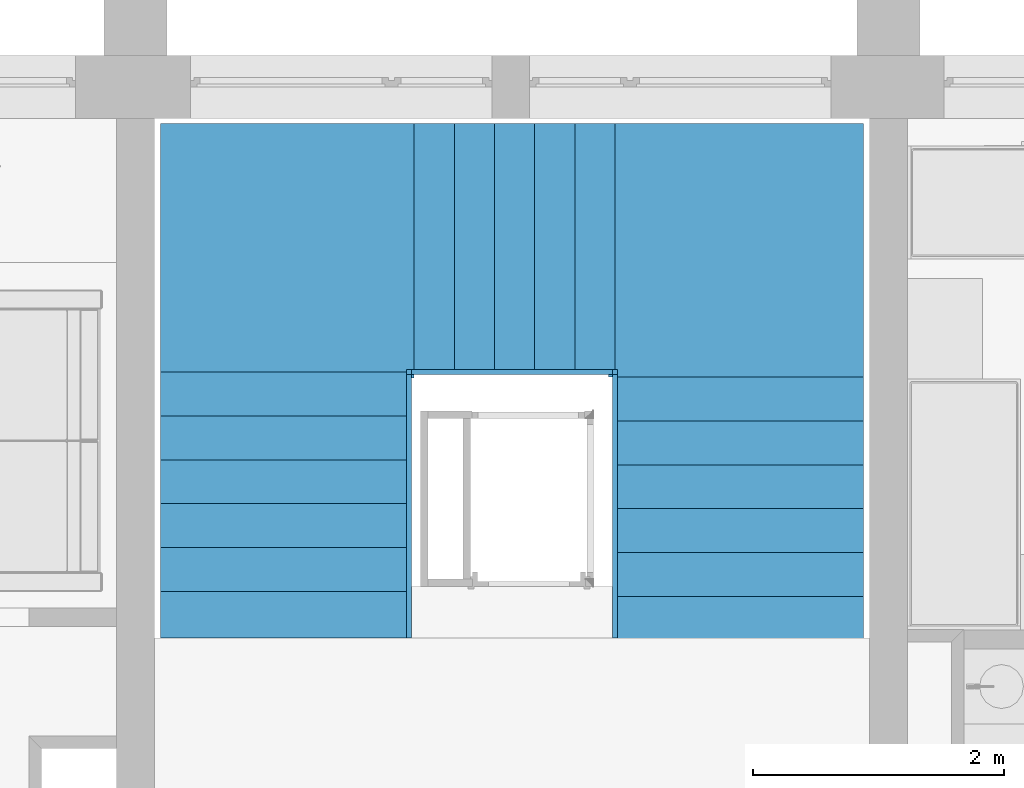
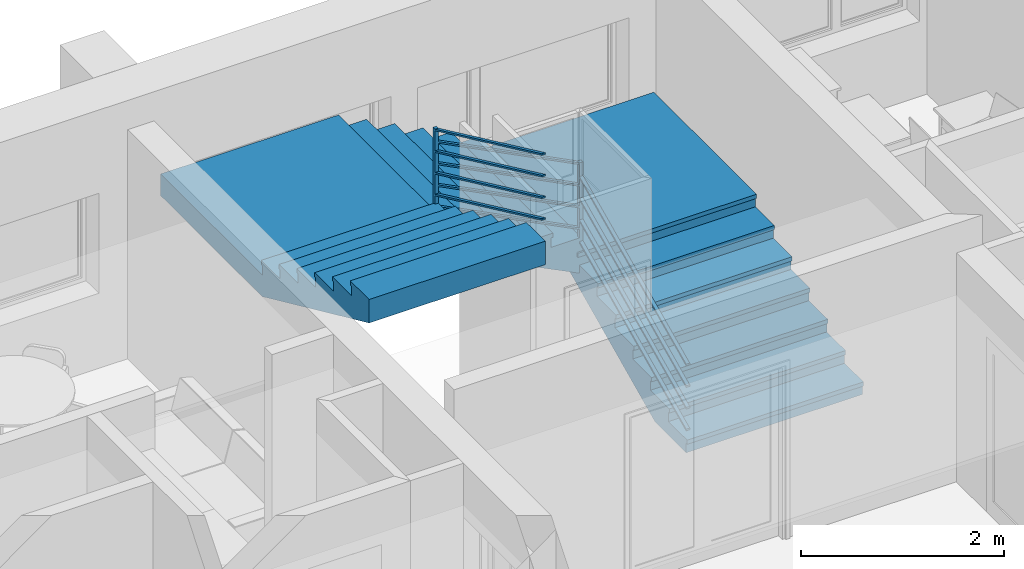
# One storey, part 41 of 172: 1 stair.
"""IFC2X3 building model written with IfcOpenShell, lengths in millimetres."""

import ifcopenshell
import ifcopenshell.guid

model = None  # the IFC model being written
_history = None  # IfcOwnerHistory: only IFC2X3 demands one
_inside = {}  # id of a spatial element -> (the spatial element, [elements in it])
_under = {}  # id of a project, library or spatial element -> (it, [spatial elements below it])
_declared = {}  # id of a project -> (the project, [libraries it declares])
_typed = {}  # id of a type object -> (the type object, [elements of that type])
_made_of = {}  # id of a material, layer set ... -> (it, [elements and type objects made of it])


def new_model(schema):
    """Start an empty IFC model of exactly this schema.

    Asked for "IFC4X3", IfcOpenShell would pick the latest addendum, in which some entities
    have other attributes; the version numbers below select the first issue.
    IFC2X3 requires an IfcOwnerHistory on every rooted entity: one is made here for all.
    """
    global model, _history
    if schema == "IFC4X3":
        model = ifcopenshell.file(schema_version=(4, 3, 0, 0))
    else:
        model = ifcopenshell.file(schema=schema)
    _inside.clear()
    _under.clear()
    _declared.clear()
    _typed.clear()
    _made_of.clear()
    _history = None
    if model.schema == "IFC2X3":
        org = make("IfcOrganization", Name="unknown")
        user = make(
            "IfcPersonAndOrganization",
            ThePerson=make("IfcPerson", FamilyName="unknown"),
            TheOrganization=org,
        )
        app = make(
            "IfcApplication",
            ApplicationDeveloper=org,
            Version="unknown",
            ApplicationFullName="unknown",
            ApplicationIdentifier="unknown",
        )
        _history = make(
            "IfcOwnerHistory",
            OwningUser=user,
            OwningApplication=app,
            ChangeAction="ADDED",
            CreationDate=0,
        )
    return model


def make(cls, **values):
    """One entity of the class cls with the attributes given. An attribute that is None is left unset."""
    return model.create_entity(
        cls, **{name: value for name, value in values.items() if value is not None}
    )


def entity(cls, *values):
    """Any entity or typed value of the class cls, its attributes in the order of the schema. None: left unset."""
    e = model.create_entity(cls)
    for i, value in enumerate(values):
        if value is not None:
            e[i] = value
    return e


def rooted(cls, **values):
    """An entity with a GlobalId (a new one), such as an element, a storey or a relation."""
    return make(cls, GlobalId=ifcopenshell.guid.new(), OwnerHistory=_history, **values)


def si_unit(unit_type, name, prefix=None):
    """IfcSIUnit, for example si_unit("LENGTHUNIT", "METRE", prefix="MILLI")."""
    return make("IfcSIUnit", UnitType=unit_type, Prefix=prefix, Name=name)


def converted_unit(unit_type, name, factor, base, dimensions=None, offset=None):
    """IfcConversionBasedUnit, such as the inch: factor (a typed value) times the base unit."""
    return make(
        "IfcConversionBasedUnit"
        if offset is None
        else "IfcConversionBasedUnitWithOffset",
        ConversionOffset=offset,
        Dimensions=None
        if dimensions is None
        else entity("IfcDimensionalExponents", *dimensions),
        UnitType=unit_type,
        Name=name,
        ConversionFactor=make(
            "IfcMeasureWithUnit", ValueComponent=factor, UnitComponent=base
        ),
    )


def money_unit(currency):
    """IfcMonetaryUnit."""
    return make("IfcMonetaryUnit", Currency=currency)


def assignment(units):
    """IfcUnitAssignment: the units of a project."""
    return None if units is None else make("IfcUnitAssignment", Units=units)


def point(xyz):
    """IfcCartesianPoint."""
    return None if xyz is None else make("IfcCartesianPoint", Coordinates=xyz)


def direction(xyz):
    """IfcDirection."""
    return None if xyz is None else make("IfcDirection", DirectionRatios=xyz)


def frame(location, z_axis=None, x_axis=None):
    """IfcAxis2Placement3D, a coordinate frame: its origin and axes. An axis left out is left unset."""
    return make(
        "IfcAxis2Placement3D",
        Location=point(location),
        Axis=direction(z_axis),
        RefDirection=direction(x_axis),
    )


def origin_with_axes():
    """The frame at (0, 0, 0) with the z axis (0, 0, 1) and the x axis (1, 0, 0) written out."""
    return frame((0.0, 0.0, 0.0), z_axis=(0.0, 0.0, 1.0), x_axis=(1.0, 0.0, 0.0))


def place(relative_to, where):
    """IfcLocalPlacement: puts the frame where relative to a parent placement (None: the world)."""
    return make(
        "IfcLocalPlacement", PlacementRelTo=relative_to, RelativePlacement=where
    )


def context(
    kind, dimensions, precision=None, world=None, true_north=None, identifier=None
):
    """IfcGeometricRepresentationContext, for example the 3D "Model" context."""
    return make(
        "IfcGeometricRepresentationContext",
        ContextIdentifier=identifier,
        ContextType=kind,
        CoordinateSpaceDimension=dimensions,
        Precision=precision,
        WorldCoordinateSystem=world,
        TrueNorth=true_north,
    )


def subcontext(parent, identifier, kind, view, scale=None):
    """IfcGeometricRepresentationSubContext, for example "Body" below "Model"."""
    return make(
        "IfcGeometricRepresentationSubContext",
        ContextIdentifier=identifier,
        ContextType=kind,
        ParentContext=parent,
        TargetScale=scale,
        TargetView=view,
    )


def project(units=None, contexts=None):
    """IfcProject with its units and contexts."""
    return rooted(
        "IfcProject",
        Name="project",
        RepresentationContexts=contexts,
        UnitsInContext=assignment(units),
    )


def spatial(cls, under=None, at=None, **own):
    """A site, building, storey or space (cls), placed at a placement, below another one or the project."""
    s = rooted(cls, ObjectPlacement=at, **own)
    if under is not None:
        _under.setdefault(under.id(), (under, []))[1].append(s)
    return s


def faces_of(points, faces, orient=None, outer=None):
    """IfcFace entities. A face is a list of loops; a loop is a list of indices into points, from 0.

    orient and outer hold one flag for each loop. By default every Orientation is true, the
    first loop of a face is its IfcFaceOuterBound and the others are IfcFaceBound.
    """
    made = []
    for i, loops in enumerate(faces):
        bounds = []
        for j, loop in enumerate(loops):
            is_outer = j == 0 if outer is None else outer[i][j]
            bounds.append(
                make(
                    "IfcFaceOuterBound" if is_outer else "IfcFaceBound",
                    Bound=make("IfcPolyLoop", Polygon=[points[k] for k in loop]),
                    Orientation=True if orient is None else orient[i][j],
                )
            )
        made.append(make("IfcFace", Bounds=bounds))
    return made


def faceted_brep(points, faces, orient=None, outer=None, voids=None):
    """IfcFacetedBrep: a solid bounded by flat faces; with voids (closed shells), ...WithVoids."""
    shared = [point(p) for p in points]
    hull = make("IfcClosedShell", CfsFaces=faces_of(shared, faces, orient, outer))
    if voids is None:
        return make("IfcFacetedBrep", Outer=hull)
    return make(
        "IfcFacetedBrepWithVoids",
        Outer=hull,
        Voids=[
            make(cls, CfsFaces=faces_of(shared, fs, o, b)) for cls, fs, o, b in voids
        ],
    )


def shape(context_of_items, identifier, shape_type, items):
    """IfcShapeRepresentation: the items that make up one representation, for example the "Body"."""
    return make(
        "IfcShapeRepresentation",
        ContextOfItems=context_of_items,
        RepresentationIdentifier=identifier,
        RepresentationType=shape_type,
        Items=items,
    )


def material(Name=None, Category=None):
    """IfcMaterial."""
    return make("IfcMaterial", Name=Name, Category=Category)


def made_of(thing, what):
    """Note that an element or type object is made of a material, layer set ...; save() writes the relation."""
    if what is not None:
        _made_of.setdefault(what.id(), (what, []))[1].append(thing)
    return thing


def element(
    cls,
    number,
    at=None,
    inside=None,
    cuts=None,
    type_object=None,
    material=None,
    context=None,
    identifier="Body",
    shape_type=None,
    held_by="IfcProductDefinitionShape",
    body=None,
    shapes=None,
    **own,
):
    """One element of the class cls, such as IfcWall. Its Tag is "e" and its number.

    at: its placement. inside: the storey or other place that contains it. cuts: it is an
    opening in that element (IfcRelVoidsElement). A single representation is given by context,
    identifier, shape_type and body (its items); several are given by shapes. held_by: the class
    of the entity that holds the representations. save() writes the other relations.
    """
    e = rooted(cls, Tag="e%d" % number, ObjectPlacement=at, **own)
    if body is not None:
        shapes = [shape(context, identifier, shape_type, body)]
    if shapes is not None:
        e.Representation = make(held_by, Representations=shapes)
    if inside is not None:
        _inside.setdefault(inside.id(), (inside, []))[1].append(e)
    if cuts is not None:
        rooted(
            "IfcRelVoidsElement", RelatingBuildingElement=cuts, RelatedOpeningElement=e
        )
    if type_object is not None:
        _typed.setdefault(type_object.id(), (type_object, []))[1].append(e)
    return made_of(e, material)


def aggregate(whole, parts):
    """IfcRelAggregates: a whole, such as a stair, and the parts it consists of."""
    return rooted("IfcRelAggregates", RelatingObject=whole, RelatedObjects=parts)


def save(model, path):
    """Write the relations noted so far, then the file.

    IfcRelAggregates (storeys below a building ...), IfcRelContainedInSpatialStructure (elements
    in a storey), IfcRelDefinesByType, IfcRelAssociatesMaterial and IfcRelDeclares: one each for
    every whole, place, type object, material and project.
    """
    for whole, parts in _under.values():
        aggregate(whole, parts)
    for where, things in _inside.values():
        rooted(
            "IfcRelContainedInSpatialStructure",
            RelatedElements=things,
            RelatingStructure=where,
        )
    for kind, things in _typed.values():
        rooted("IfcRelDefinesByType", RelatedObjects=things, RelatingType=kind)
    for what, things in _made_of.values():
        rooted("IfcRelAssociatesMaterial", RelatedObjects=things, RelatingMaterial=what)
    for by, libraries in _declared.values():
        rooted("IfcRelDeclares", RelatingContext=by, RelatedDefinitions=libraries)
    model.write(path)


model = new_model("IFC2X3")

# Units and contexts
model_context = context("Model", 3, precision=1e-05, world=origin_with_axes(), true_north=direction((0.0, 1.0)))
body_context = subcontext(model_context, "Body", "Model", "MODEL_VIEW")
ifc_project = project(units=[si_unit("LENGTHUNIT", "METRE", prefix="MILLI"), si_unit("AREAUNIT", "SQUARE_METRE"), si_unit("VOLUMEUNIT", "CUBIC_METRE"), converted_unit("PLANEANGLEUNIT", "DEGREE", entity("IfcPlaneAngleMeasure", 0.0174532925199), si_unit("PLANEANGLEUNIT", "RADIAN"), dimensions=[0, 0, 0, 0, 0, 0, 0]), si_unit("SOLIDANGLEUNIT", "STERADIAN"), money_unit("USD"), converted_unit("TIMEUNIT", "Year", entity("IfcTimeMeasure", 31556926.0), si_unit("TIMEUNIT", "SECOND"), dimensions=[0, 0, 0, 0, 0, 0, 0]), si_unit("MASSUNIT", "GRAM"), si_unit("THERMODYNAMICTEMPERATUREUNIT", "DEGREE_CELSIUS"), si_unit("LUMINOUSINTENSITYUNIT", "LUMEN")], contexts=[model_context])

# Site, building, storey
site_placement = place(None, origin_with_axes())
site = spatial("IfcSite", under=ifc_project, at=site_placement, Name="Site", CompositionType="ELEMENT")
building_placement = place(site_placement, origin_with_axes())
building = spatial("IfcBuilding", under=site, at=building_placement, Name="Building", CompositionType="ELEMENT")
storey_placement = place(building_placement, frame((0.0, 0.0, 3200.0), z_axis=(0.0, 0.0, 1.0), x_axis=(1.0, 0.0, 0.0)))
storey = spatial("IfcBuildingStorey", under=building, at=storey_placement, Name="3KORRUS", CompositionType="ELEMENT", Elevation=3200.0)

# Stair
ifc_material = material(Name="25 %")
stair_placement = place(storey_placement, frame((-6340.29670331, -9280.64352695, 0.0), z_axis=(0.0, 0.0, 1.0), x_axis=(1.0, 0.0, 0.0)))
element("IfcStair", 1, at=stair_placement, inside=storey, material=ifc_material, Name="TRE3", ObjectType="TRE3", ShapeType="NOTDEFINED", context=body_context, shape_type="Brep", body=[
    faceted_brep([(0.0, 615.367, 0.0), (-2000.0, 615.367, 0.0), (-2000.0, 2496.543, 882.105), (0.0, 2496.543, 882.105), (0.0, 30.0, 0.0), (-2000.0, 30.0, 0.0), (-2000.0, 30.0, 113.158), (-2000.0, 380.0, 113.158), (-2000.0, 380.0, 276.316), (-2000.0, 730.0, 276.316), (-2000.0, 730.0, 439.474), (-2000.0, 1080.0, 439.474), (-2000.0, 1080.0, 602.632), (-2000.0, 1430.0, 602.632), (-2000.0, 1430.0, 765.789), (-2000.0, 1780.0, 765.789), (-2000.0, 1780.0, 928.947), (-2000.0, 2130.0, 928.947), (-2000.0, 2130.0, 882.105), (0.0, 2130.0, 882.105), (0.0, 2130.0, 928.947), (0.0, 1780.0, 928.947), (0.0, 1780.0, 765.789), (0.0, 1430.0, 765.789), (0.0, 1430.0, 602.632), (0.0, 1080.0, 602.632), (0.0, 1080.0, 439.474), (0.0, 730.0, 439.474), (0.0, 730.0, 276.316), (0.0, 380.0, 276.316), (0.0, 380.0, 113.158), (0.0, 30.0, 113.158)], [[[0, 1, 2, 3]], [[4, 5, 1, 0]], [[1, 5, 6, 7, 8, 9, 10, 11, 12, 13, 14, 15, 16, 17, 18, 2]], [[3, 2, 18, 19]], [[0, 3, 19, 20, 21, 22, 23, 24, 25, 26, 27, 28, 29, 30, 31, 4]], [[31, 6, 5, 4]], [[30, 7, 6, 31]], [[29, 8, 7, 30]], [[28, 9, 8, 29]], [[27, 10, 9, 28]], [[26, 11, 10, 27]], [[25, 12, 11, 26]], [[24, 13, 12, 25]], [[23, 14, 13, 24]], [[22, 15, 14, 23]], [[21, 16, 15, 22]], [[20, 17, 16, 21]], [[19, 18, 17, 20]]]),
    faceted_brep([(0.0, 0.0, 0.0), (-2000.0, 0.0, 0.0), (-2000.0, 30.0, 0.0), (0.0, 30.0, 0.0), (0.0, 0.0, 113.158), (-2000.0, 0.0, 113.158), (-2000.0, 30.0, 113.158), (0.0, 30.0, 113.158)], [[[0, 1, 2, 3]], [[4, 5, 1, 0]], [[1, 5, 6, 2]], [[3, 2, 6, 7]], [[0, 3, 7, 4]], [[7, 6, 5, 4]]]),
    faceted_brep([(0.0, 350.0, 163.158), (-2000.0, 350.0, 163.158), (-2000.0, 380.0, 163.158), (0.0, 380.0, 163.158), (0.0, 350.0, 276.316), (-2000.0, 350.0, 276.316), (-2000.0, 380.0, 276.316), (0.0, 380.0, 276.316)], [[[0, 1, 2, 3]], [[4, 5, 1, 0]], [[1, 5, 6, 2]], [[3, 2, 6, 7]], [[0, 3, 7, 4]], [[7, 6, 5, 4]]]),
    faceted_brep([(0.0, 700.0, 326.316), (-2000.0, 700.0, 326.316), (-2000.0, 730.0, 326.316), (0.0, 730.0, 326.316), (0.0, 700.0, 439.474), (-2000.0, 700.0, 439.474), (-2000.0, 730.0, 439.474), (0.0, 730.0, 439.474)], [[[0, 1, 2, 3]], [[4, 5, 1, 0]], [[1, 5, 6, 2]], [[3, 2, 6, 7]], [[0, 3, 7, 4]], [[7, 6, 5, 4]]]),
    faceted_brep([(0.0, 1050.0, 489.474), (-2000.0, 1050.0, 489.474), (-2000.0, 1080.0, 489.474), (0.0, 1080.0, 489.474), (0.0, 1050.0, 602.632), (-2000.0, 1050.0, 602.632), (-2000.0, 1080.0, 602.632), (0.0, 1080.0, 602.632)], [[[0, 1, 2, 3]], [[4, 5, 1, 0]], [[1, 5, 6, 2]], [[3, 2, 6, 7]], [[0, 3, 7, 4]], [[7, 6, 5, 4]]]),
    faceted_brep([(0.0, 1400.0, 652.632), (-2000.0, 1400.0, 652.632), (-2000.0, 1430.0, 652.632), (0.0, 1430.0, 652.632), (0.0, 1400.0, 765.789), (-2000.0, 1400.0, 765.789), (-2000.0, 1430.0, 765.789), (0.0, 1430.0, 765.789)], [[[0, 1, 2, 3]], [[4, 5, 1, 0]], [[1, 5, 6, 2]], [[3, 2, 6, 7]], [[0, 3, 7, 4]], [[7, 6, 5, 4]]]),
    faceted_brep([(0.0, 1750.0, 815.789), (-2000.0, 1750.0, 815.789), (-2000.0, 1780.0, 815.789), (0.0, 1780.0, 815.789), (0.0, 1750.0, 928.947), (-2000.0, 1750.0, 928.947), (-2000.0, 1780.0, 928.947), (0.0, 1780.0, 928.947)], [[[0, 1, 2, 3]], [[4, 5, 1, 0]], [[1, 5, 6, 2]], [[3, 2, 6, 7]], [[0, 3, 7, 4]], [[7, 6, 5, 4]]]),
    faceted_brep([(0.0, 2100.0, 978.947), (-2000.0, 2100.0, 978.947), (-2000.0, 2130.0, 978.947), (0.0, 2130.0, 978.947), (0.0, 2100.0, 1092.105), (-2000.0, 2100.0, 1092.105), (-2000.0, 2130.0, 1092.105), (0.0, 2130.0, 1092.105)], [[[0, 1, 2, 3]], [[4, 5, 1, 0]], [[1, 5, 6, 2]], [[3, 2, 6, 7]], [[0, 3, 7, 4]], [[7, 6, 5, 4]]]),
    faceted_brep([(0.0, 2130.0, 882.105), (0.0, 2130.0, 928.947), (-2000.0, 2130.0, 928.947), (-2000.0, 2130.0, 882.105), (0.0, 2496.543, 882.105), (0.0, 2496.543, 928.947), (0.0, 4100.0, 928.947), (-2000.0, 4100.0, 928.947), (-2000.0, 2496.543, 928.947), (-2000.0, 2496.543, 882.105), (-2000.0, 4100.0, 882.105), (0.0, 4100.0, 882.105)], [[[0, 1, 2, 3]], [[4, 5, 1, 0]], [[1, 5, 6, 7, 8, 2]], [[3, 2, 8, 9]], [[0, 3, 9, 10, 11, 4]], [[11, 6, 5, 4]], [[10, 7, 6, 11]], [[9, 8, 7, 10]]]),
    faceted_brep([(0.0, 2130.0, 928.947), (0.0, 2130.0, 1092.105), (-2000.0, 2130.0, 1092.105), (-2000.0, 2130.0, 928.947), (0.0, 4100.0, 928.947), (0.0, 4100.0, 1092.105), (-2000.0, 4100.0, 1092.105), (-2000.0, 4100.0, 928.947)], [[[0, 1, 2, 3]], [[4, 5, 1, 0]], [[1, 5, 6, 2]], [[3, 2, 6, 7]], [[0, 3, 7, 4]], [[7, 6, 5, 4]]]),
    faceted_brep([(-3966.543, 4100.0, 1861.053), (-3966.543, 2100.0, 1861.053), (-3630.0, 2100.0, 1861.053), (-3630.0, 4100.0, 1861.053), (-2000.0, 4100.0, 882.105), (-2000.0, 2100.0, 882.105), (-2000.0, 2100.0, 1092.105), (-2030.0, 2100.0, 1092.105), (-2030.0, 2100.0, 1255.263), (-2350.0, 2100.0, 1255.263), (-2350.0, 2100.0, 1418.421), (-2670.0, 2100.0, 1418.421), (-2670.0, 2100.0, 1581.579), (-2990.0, 2100.0, 1581.579), (-2990.0, 2100.0, 1744.737), (-3310.0, 2100.0, 1744.737), (-3310.0, 2100.0, 1907.895), (-3630.0, 2100.0, 1907.895), (-3630.0, 4100.0, 1907.895), (-3310.0, 4100.0, 1907.895), (-3310.0, 4100.0, 1744.737), (-2990.0, 4100.0, 1744.737), (-2990.0, 4100.0, 1581.579), (-2670.0, 4100.0, 1581.579), (-2670.0, 4100.0, 1418.421), (-2350.0, 4100.0, 1418.421), (-2350.0, 4100.0, 1255.263), (-2030.0, 4100.0, 1255.263), (-2030.0, 4100.0, 1092.105), (-2000.0, 4100.0, 1092.105)], [[[0, 1, 2, 3]], [[4, 5, 1, 0]], [[1, 5, 6, 7, 8, 9, 10, 11, 12, 13, 14, 15, 16, 17, 2]], [[3, 2, 17, 18]], [[0, 3, 18, 19, 20, 21, 22, 23, 24, 25, 26, 27, 28, 29, 4]], [[29, 6, 5, 4]], [[28, 7, 6, 29]], [[27, 8, 7, 28]], [[26, 9, 8, 27]], [[25, 10, 9, 26]], [[24, 11, 10, 25]], [[23, 12, 11, 24]], [[22, 13, 12, 23]], [[21, 14, 13, 22]], [[20, 15, 14, 21]], [[19, 16, 15, 20]], [[18, 17, 16, 19]]]),
    faceted_brep([(-2000.0, 4100.0, 1142.105), (-2000.0, 2100.0, 1142.105), (-2030.0, 2100.0, 1142.105), (-2030.0, 4100.0, 1142.105), (-2000.0, 4100.0, 1255.263), (-2000.0, 2100.0, 1255.263), (-2030.0, 2100.0, 1255.263), (-2030.0, 4100.0, 1255.263)], [[[0, 1, 2, 3]], [[4, 5, 1, 0]], [[1, 5, 6, 2]], [[3, 2, 6, 7]], [[0, 3, 7, 4]], [[7, 6, 5, 4]]]),
    faceted_brep([(-2320.0, 4100.0, 1305.263), (-2320.0, 2100.0, 1305.263), (-2350.0, 2100.0, 1305.263), (-2350.0, 4100.0, 1305.263), (-2320.0, 4100.0, 1418.421), (-2320.0, 2100.0, 1418.421), (-2350.0, 2100.0, 1418.421), (-2350.0, 4100.0, 1418.421)], [[[0, 1, 2, 3]], [[4, 5, 1, 0]], [[1, 5, 6, 2]], [[3, 2, 6, 7]], [[0, 3, 7, 4]], [[7, 6, 5, 4]]]),
    faceted_brep([(-2640.0, 4100.0, 1468.421), (-2640.0, 2100.0, 1468.421), (-2670.0, 2100.0, 1468.421), (-2670.0, 4100.0, 1468.421), (-2640.0, 4100.0, 1581.579), (-2640.0, 2100.0, 1581.579), (-2670.0, 2100.0, 1581.579), (-2670.0, 4100.0, 1581.579)], [[[0, 1, 2, 3]], [[4, 5, 1, 0]], [[1, 5, 6, 2]], [[3, 2, 6, 7]], [[0, 3, 7, 4]], [[7, 6, 5, 4]]]),
    faceted_brep([(-2960.0, 4100.0, 1631.579), (-2960.0, 2100.0, 1631.579), (-2990.0, 2100.0, 1631.579), (-2990.0, 4100.0, 1631.579), (-2960.0, 4100.0, 1744.737), (-2960.0, 2100.0, 1744.737), (-2990.0, 2100.0, 1744.737), (-2990.0, 4100.0, 1744.737)], [[[0, 1, 2, 3]], [[4, 5, 1, 0]], [[1, 5, 6, 2]], [[3, 2, 6, 7]], [[0, 3, 7, 4]], [[7, 6, 5, 4]]]),
    faceted_brep([(-3280.0, 4100.0, 1794.737), (-3280.0, 2100.0, 1794.737), (-3310.0, 2100.0, 1794.737), (-3310.0, 4100.0, 1794.737), (-3280.0, 4100.0, 1907.895), (-3280.0, 2100.0, 1907.895), (-3310.0, 2100.0, 1907.895), (-3310.0, 4100.0, 1907.895)], [[[0, 1, 2, 3]], [[4, 5, 1, 0]], [[1, 5, 6, 2]], [[3, 2, 6, 7]], [[0, 3, 7, 4]], [[7, 6, 5, 4]]]),
    faceted_brep([(-3600.0, 4100.0, 1957.895), (-3600.0, 2100.0, 1957.895), (-3630.0, 2100.0, 1957.895), (-3630.0, 4100.0, 1957.895), (-3600.0, 4100.0, 2071.053), (-3600.0, 2100.0, 2071.053), (-3630.0, 2100.0, 2071.053), (-3630.0, 4100.0, 2071.053)], [[[0, 1, 2, 3]], [[4, 5, 1, 0]], [[1, 5, 6, 2]], [[3, 2, 6, 7]], [[0, 3, 7, 4]], [[7, 6, 5, 4]]]),
    faceted_brep([(-3630.0, 4100.0, 1861.053), (-3630.0, 4100.0, 1907.895), (-3630.0, 2100.0, 1907.895), (-3630.0, 2100.0, 1861.053), (-3950.0, 4100.0, 1861.053), (-3950.0, 4100.0, 1907.895), (-5600.0, 4100.0, 1907.895), (-5600.0, 2100.0, 1907.895), (-3950.0, 2100.0, 1907.895), (-3950.0, 2100.0, 1861.053), (-5600.0, 2100.0, 1861.053), (-5600.0, 4100.0, 1861.053)], [[[0, 1, 2, 3]], [[4, 5, 1, 0]], [[1, 5, 6, 7, 8, 2]], [[3, 2, 8, 9]], [[0, 3, 9, 10, 11, 4]], [[11, 6, 5, 4]], [[10, 7, 6, 11]], [[9, 8, 7, 10]]]),
    faceted_brep([(-3630.0, 4100.0, 1907.895), (-3630.0, 4100.0, 2071.053), (-3630.0, 2100.0, 2071.053), (-3630.0, 2100.0, 1907.895), (-5600.0, 4100.0, 1907.895), (-5600.0, 4100.0, 2071.053), (-5600.0, 2100.0, 2071.053), (-5600.0, 2100.0, 1907.895)], [[[0, 1, 2, 3]], [[4, 5, 1, 0]], [[1, 5, 6, 2]], [[3, 2, 6, 7]], [[0, 3, 7, 4]], [[7, 6, 5, 4]]]),
    faceted_brep([(-5600.0, 0.0, 2818.303), (-3600.0, 0.0, 2818.303), (-3600.0, 0.0, 3050.0), (-5600.0, 0.0, 3050.0), (-5600.0, 2100.0, 1861.053), (-3600.0, 2100.0, 1861.053), (-3600.0, 2100.0, 2071.053), (-3600.0, 2070.0, 2071.053), (-3600.0, 2070.0, 2234.211), (-3600.0, 1720.0, 2234.211), (-3600.0, 1720.0, 2397.368), (-3600.0, 1370.0, 2397.368), (-3600.0, 1370.0, 2560.526), (-3600.0, 1020.0, 2560.526), (-3600.0, 1020.0, 2723.684), (-3600.0, 670.0, 2723.684), (-3600.0, 670.0, 2886.842), (-3600.0, 320.0, 2886.842), (-3600.0, 320.0, 3050.0), (-5600.0, 320.0, 3050.0), (-5600.0, 320.0, 2886.842), (-5600.0, 670.0, 2886.842), (-5600.0, 670.0, 2723.684), (-5600.0, 1020.0, 2723.684), (-5600.0, 1020.0, 2560.526), (-5600.0, 1370.0, 2560.526), (-5600.0, 1370.0, 2397.368), (-5600.0, 1720.0, 2397.368), (-5600.0, 1720.0, 2234.211), (-5600.0, 2070.0, 2234.211), (-5600.0, 2070.0, 2071.053), (-5600.0, 2100.0, 2071.053)], [[[0, 1, 2, 3]], [[4, 5, 1, 0]], [[1, 5, 6, 7, 8, 9, 10, 11, 12, 13, 14, 15, 16, 17, 18, 2]], [[3, 2, 18, 19]], [[0, 3, 19, 20, 21, 22, 23, 24, 25, 26, 27, 28, 29, 30, 31, 4]], [[31, 6, 5, 4]], [[30, 7, 6, 31]], [[29, 8, 7, 30]], [[28, 9, 8, 29]], [[27, 10, 9, 28]], [[26, 11, 10, 27]], [[25, 12, 11, 26]], [[24, 13, 12, 25]], [[23, 14, 13, 24]], [[22, 15, 14, 23]], [[21, 16, 15, 22]], [[20, 17, 16, 21]], [[19, 18, 17, 20]]]),
    faceted_brep([(-5600.0, 2100.0, 2121.053), (-3600.0, 2100.0, 2121.053), (-3600.0, 2070.0, 2121.053), (-5600.0, 2070.0, 2121.053), (-5600.0, 2100.0, 2234.211), (-3600.0, 2100.0, 2234.211), (-3600.0, 2070.0, 2234.211), (-5600.0, 2070.0, 2234.211)], [[[0, 1, 2, 3]], [[4, 5, 1, 0]], [[1, 5, 6, 2]], [[3, 2, 6, 7]], [[0, 3, 7, 4]], [[7, 6, 5, 4]]]),
    faceted_brep([(-5600.0, 1750.0, 2284.211), (-3600.0, 1750.0, 2284.211), (-3600.0, 1720.0, 2284.211), (-5600.0, 1720.0, 2284.211), (-5600.0, 1750.0, 2397.368), (-3600.0, 1750.0, 2397.368), (-3600.0, 1720.0, 2397.368), (-5600.0, 1720.0, 2397.368)], [[[0, 1, 2, 3]], [[4, 5, 1, 0]], [[1, 5, 6, 2]], [[3, 2, 6, 7]], [[0, 3, 7, 4]], [[7, 6, 5, 4]]]),
    faceted_brep([(-5600.0, 1400.0, 2447.368), (-3600.0, 1400.0, 2447.368), (-3600.0, 1370.0, 2447.368), (-5600.0, 1370.0, 2447.368), (-5600.0, 1400.0, 2560.526), (-3600.0, 1400.0, 2560.526), (-3600.0, 1370.0, 2560.526), (-5600.0, 1370.0, 2560.526)], [[[0, 1, 2, 3]], [[4, 5, 1, 0]], [[1, 5, 6, 2]], [[3, 2, 6, 7]], [[0, 3, 7, 4]], [[7, 6, 5, 4]]]),
    faceted_brep([(-5600.0, 1050.0, 2610.526), (-3600.0, 1050.0, 2610.526), (-3600.0, 1020.0, 2610.526), (-5600.0, 1020.0, 2610.526), (-5600.0, 1050.0, 2723.684), (-3600.0, 1050.0, 2723.684), (-3600.0, 1020.0, 2723.684), (-5600.0, 1020.0, 2723.684)], [[[0, 1, 2, 3]], [[4, 5, 1, 0]], [[1, 5, 6, 2]], [[3, 2, 6, 7]], [[0, 3, 7, 4]], [[7, 6, 5, 4]]]),
    faceted_brep([(-5600.0, 700.0, 2773.684), (-3600.0, 700.0, 2773.684), (-3600.0, 670.0, 2773.684), (-5600.0, 670.0, 2773.684), (-5600.0, 700.0, 2886.842), (-3600.0, 700.0, 2886.842), (-3600.0, 670.0, 2886.842), (-5600.0, 670.0, 2886.842)], [[[0, 1, 2, 3]], [[4, 5, 1, 0]], [[1, 5, 6, 2]], [[3, 2, 6, 7]], [[0, 3, 7, 4]], [[7, 6, 5, 4]]]),
    faceted_brep([(-5600.0, 350.0, 2936.842), (-3600.0, 350.0, 2936.842), (-3600.0, 320.0, 2936.842), (-5600.0, 320.0, 2936.842), (-5600.0, 350.0, 3050.0), (-3600.0, 350.0, 3050.0), (-3600.0, 320.0, 3050.0), (-5600.0, 320.0, 3050.0)], [[[0, 1, 2, 3]], [[4, 5, 1, 0]], [[1, 5, 6, 2]], [[3, 2, 6, 7]], [[0, 3, 7, 4]], [[7, 6, 5, 4]]]),
    faceted_brep([(-2000.0, -20.0, 113.158), (-2000.0, 380.0, 113.158), (0.0, 380.0, 113.158), (0.0, -20.0, 113.158), (-2000.0, -20.0, 163.158), (-2000.0, 380.0, 163.158), (0.0, 380.0, 163.158), (0.0, -20.0, 163.158)], [[[0, 1, 2, 3]], [[0, 4, 5, 1]], [[1, 5, 6, 2]], [[2, 6, 7, 3]], [[3, 7, 4, 0]], [[7, 6, 5, 4]]]),
    faceted_brep([(-2000.0, 330.0, 276.316), (-2000.0, 730.0, 276.316), (0.0, 730.0, 276.316), (0.0, 330.0, 276.316), (-2000.0, 330.0, 326.316), (-2000.0, 730.0, 326.316), (0.0, 730.0, 326.316), (0.0, 330.0, 326.316)], [[[0, 1, 2, 3]], [[0, 4, 5, 1]], [[1, 5, 6, 2]], [[2, 6, 7, 3]], [[3, 7, 4, 0]], [[7, 6, 5, 4]]]),
    faceted_brep([(-2000.0, 680.0, 439.474), (-2000.0, 1080.0, 439.474), (0.0, 1080.0, 439.474), (0.0, 680.0, 439.474), (-2000.0, 680.0, 489.474), (-2000.0, 1080.0, 489.474), (0.0, 1080.0, 489.474), (0.0, 680.0, 489.474)], [[[0, 1, 2, 3]], [[0, 4, 5, 1]], [[1, 5, 6, 2]], [[2, 6, 7, 3]], [[3, 7, 4, 0]], [[7, 6, 5, 4]]]),
    faceted_brep([(-2000.0, 1030.0, 602.632), (-2000.0, 1430.0, 602.632), (0.0, 1430.0, 602.632), (0.0, 1030.0, 602.632), (-2000.0, 1030.0, 652.632), (-2000.0, 1430.0, 652.632), (0.0, 1430.0, 652.632), (0.0, 1030.0, 652.632)], [[[0, 1, 2, 3]], [[0, 4, 5, 1]], [[1, 5, 6, 2]], [[2, 6, 7, 3]], [[3, 7, 4, 0]], [[7, 6, 5, 4]]]),
    faceted_brep([(-2000.0, 1380.0, 765.789), (-2000.0, 1780.0, 765.789), (0.0, 1780.0, 765.789), (0.0, 1380.0, 765.789), (-2000.0, 1380.0, 815.789), (-2000.0, 1780.0, 815.789), (0.0, 1780.0, 815.789), (0.0, 1380.0, 815.789)], [[[0, 1, 2, 3]], [[0, 4, 5, 1]], [[1, 5, 6, 2]], [[2, 6, 7, 3]], [[3, 7, 4, 0]], [[7, 6, 5, 4]]]),
    faceted_brep([(-2000.0, 1730.0, 928.947), (-2000.0, 2130.0, 928.947), (0.0, 2130.0, 928.947), (0.0, 1730.0, 928.947), (-2000.0, 1730.0, 978.947), (-2000.0, 2130.0, 978.947), (0.0, 2130.0, 978.947), (0.0, 1730.0, 978.947)], [[[0, 1, 2, 3]], [[0, 4, 5, 1]], [[1, 5, 6, 2]], [[2, 6, 7, 3]], [[3, 7, 4, 0]], [[7, 6, 5, 4]]]),
    faceted_brep([(-2030.0, 2080.0, 1092.105), (-2030.0, 4100.0, 1092.105), (0.0, 4100.0, 1092.105), (0.0, 2080.0, 1092.105), (-2030.0, 2080.0, 1142.105), (-2030.0, 4100.0, 1142.105), (0.0, 4100.0, 1142.105), (0.0, 2080.0, 1142.105)], [[[0, 1, 2, 3]], [[0, 4, 5, 1]], [[1, 5, 6, 2]], [[2, 6, 7, 3]], [[3, 7, 4, 0]], [[7, 6, 5, 4]]]),
    faceted_brep([(-1980.0, 2100.0, 1255.263), (-2350.0, 2100.0, 1255.263), (-2350.0, 4100.0, 1255.263), (-1980.0, 4100.0, 1255.263), (-1980.0, 2100.0, 1305.263), (-2350.0, 2100.0, 1305.263), (-2350.0, 4100.0, 1305.263), (-1980.0, 4100.0, 1305.263)], [[[0, 1, 2, 3]], [[0, 4, 5, 1]], [[1, 5, 6, 2]], [[2, 6, 7, 3]], [[3, 7, 4, 0]], [[7, 6, 5, 4]]]),
    faceted_brep([(-2300.0, 2100.0, 1418.421), (-2670.0, 2100.0, 1418.421), (-2670.0, 4100.0, 1418.421), (-2300.0, 4100.0, 1418.421), (-2300.0, 2100.0, 1468.421), (-2670.0, 2100.0, 1468.421), (-2670.0, 4100.0, 1468.421), (-2300.0, 4100.0, 1468.421)], [[[0, 1, 2, 3]], [[0, 4, 5, 1]], [[1, 5, 6, 2]], [[2, 6, 7, 3]], [[3, 7, 4, 0]], [[7, 6, 5, 4]]]),
    faceted_brep([(-2620.0, 2100.0, 1581.579), (-2990.0, 2100.0, 1581.579), (-2990.0, 4100.0, 1581.579), (-2620.0, 4100.0, 1581.579), (-2620.0, 2100.0, 1631.579), (-2990.0, 2100.0, 1631.579), (-2990.0, 4100.0, 1631.579), (-2620.0, 4100.0, 1631.579)], [[[0, 1, 2, 3]], [[0, 4, 5, 1]], [[1, 5, 6, 2]], [[2, 6, 7, 3]], [[3, 7, 4, 0]], [[7, 6, 5, 4]]]),
    faceted_brep([(-2940.0, 2100.0, 1744.737), (-3310.0, 2100.0, 1744.737), (-3310.0, 4100.0, 1744.737), (-2940.0, 4100.0, 1744.737), (-2940.0, 2100.0, 1794.737), (-3310.0, 2100.0, 1794.737), (-3310.0, 4100.0, 1794.737), (-2940.0, 4100.0, 1794.737)], [[[0, 1, 2, 3]], [[0, 4, 5, 1]], [[1, 5, 6, 2]], [[2, 6, 7, 3]], [[3, 7, 4, 0]], [[7, 6, 5, 4]]]),
    faceted_brep([(-3260.0, 2100.0, 1907.895), (-3630.0, 2100.0, 1907.895), (-3630.0, 4100.0, 1907.895), (-3260.0, 4100.0, 1907.895), (-3260.0, 2100.0, 1957.895), (-3630.0, 2100.0, 1957.895), (-3630.0, 4100.0, 1957.895), (-3260.0, 4100.0, 1957.895)], [[[0, 1, 2, 3]], [[0, 4, 5, 1]], [[1, 5, 6, 2]], [[2, 6, 7, 3]], [[3, 7, 4, 0]], [[7, 6, 5, 4]]]),
    faceted_brep([(-5600.0, 2070.0, 2071.053), (-5600.0, 4100.0, 2071.053), (-3580.0, 4100.0, 2071.053), (-3580.0, 2070.0, 2071.053), (-5600.0, 2070.0, 2121.053), (-5600.0, 4100.0, 2121.053), (-3580.0, 4100.0, 2121.053), (-3580.0, 2070.0, 2121.053)], [[[0, 1, 2, 3]], [[0, 4, 5, 1]], [[1, 5, 6, 2]], [[2, 6, 7, 3]], [[3, 7, 4, 0]], [[7, 6, 5, 4]]]),
    faceted_brep([(-3600.0, 2120.0, 2234.211), (-3600.0, 1720.0, 2234.211), (-5600.0, 1720.0, 2234.211), (-5600.0, 2120.0, 2234.211), (-3600.0, 2120.0, 2284.211), (-3600.0, 1720.0, 2284.211), (-5600.0, 1720.0, 2284.211), (-5600.0, 2120.0, 2284.211)], [[[0, 1, 2, 3]], [[0, 4, 5, 1]], [[1, 5, 6, 2]], [[2, 6, 7, 3]], [[3, 7, 4, 0]], [[7, 6, 5, 4]]]),
    faceted_brep([(-3600.0, 1770.0, 2397.368), (-3600.0, 1370.0, 2397.368), (-5600.0, 1370.0, 2397.368), (-5600.0, 1770.0, 2397.368), (-3600.0, 1770.0, 2447.368), (-3600.0, 1370.0, 2447.368), (-5600.0, 1370.0, 2447.368), (-5600.0, 1770.0, 2447.368)], [[[0, 1, 2, 3]], [[0, 4, 5, 1]], [[1, 5, 6, 2]], [[2, 6, 7, 3]], [[3, 7, 4, 0]], [[7, 6, 5, 4]]]),
    faceted_brep([(-3600.0, 1420.0, 2560.526), (-3600.0, 1020.0, 2560.526), (-5600.0, 1020.0, 2560.526), (-5600.0, 1420.0, 2560.526), (-3600.0, 1420.0, 2610.526), (-3600.0, 1020.0, 2610.526), (-5600.0, 1020.0, 2610.526), (-5600.0, 1420.0, 2610.526)], [[[0, 1, 2, 3]], [[0, 4, 5, 1]], [[1, 5, 6, 2]], [[2, 6, 7, 3]], [[3, 7, 4, 0]], [[7, 6, 5, 4]]]),
    faceted_brep([(-3600.0, 1070.0, 2723.684), (-3600.0, 670.0, 2723.684), (-5600.0, 670.0, 2723.684), (-5600.0, 1070.0, 2723.684), (-3600.0, 1070.0, 2773.684), (-3600.0, 670.0, 2773.684), (-5600.0, 670.0, 2773.684), (-5600.0, 1070.0, 2773.684)], [[[0, 1, 2, 3]], [[0, 4, 5, 1]], [[1, 5, 6, 2]], [[2, 6, 7, 3]], [[3, 7, 4, 0]], [[7, 6, 5, 4]]]),
    faceted_brep([(-3600.0, 720.0, 2886.842), (-3600.0, 320.0, 2886.842), (-5600.0, 320.0, 2886.842), (-5600.0, 720.0, 2886.842), (-3600.0, 720.0, 2936.842), (-3600.0, 320.0, 2936.842), (-5600.0, 320.0, 2936.842), (-5600.0, 720.0, 2936.842)], [[[0, 1, 2, 3]], [[0, 4, 5, 1]], [[1, 5, 6, 2]], [[2, 6, 7, 3]], [[3, 7, 4, 0]], [[7, 6, 5, 4]]]),
    faceted_brep([(-3600.0, 370.0, 3050.0), (-3600.0, 0.0, 3050.0), (-5600.0, 0.0, 3050.0), (-5600.0, 370.0, 3050.0), (-3600.0, 370.0, 3100.0), (-3600.0, 0.0, 3100.0), (-5600.0, 0.0, 3100.0), (-5600.0, 370.0, 3100.0)], [[[0, 1, 2, 3]], [[0, 4, 5, 1]], [[1, 5, 6, 2]], [[2, 6, 7, 3]], [[3, 7, 4, 0]], [[7, 6, 5, 4]]]),
    faceted_brep([(-1960.0, 0.0, 263.158), (-2000.0, 0.0, 263.158), (-2000.0, 2100.0, 1242.105), (-1960.0, 2100.0, 1242.105), (-1960.0, 0.0, 283.158), (-2000.0, 0.0, 283.158), (-2000.0, 2100.0, 1262.105), (-1960.0, 2100.0, 1262.105)], [[[0, 1, 2, 3]], [[4, 5, 1, 0]], [[1, 5, 6, 2]], [[3, 2, 6, 7]], [[0, 3, 7, 4]], [[7, 6, 5, 4]]]),
    faceted_brep([(-1960.0, 0.0, 523.158), (-2000.0, 0.0, 523.158), (-2000.0, 2100.0, 1502.105), (-1960.0, 2100.0, 1502.105), (-1960.0, 0.0, 543.158), (-2000.0, 0.0, 543.158), (-2000.0, 2100.0, 1522.105), (-1960.0, 2100.0, 1522.105)], [[[0, 1, 2, 3]], [[4, 5, 1, 0]], [[1, 5, 6, 2]], [[3, 2, 6, 7]], [[0, 3, 7, 4]], [[7, 6, 5, 4]]]),
    faceted_brep([(-1960.0, 0.0, 783.158), (-2000.0, 0.0, 783.158), (-2000.0, 2100.0, 1762.105), (-1960.0, 2100.0, 1762.105), (-1960.0, 0.0, 803.158), (-2000.0, 0.0, 803.158), (-2000.0, 2100.0, 1782.105), (-1960.0, 2100.0, 1782.105)], [[[0, 1, 2, 3]], [[4, 5, 1, 0]], [[1, 5, 6, 2]], [[3, 2, 6, 7]], [[0, 3, 7, 4]], [[7, 6, 5, 4]]]),
    faceted_brep([(-1960.0, 0.0, 1043.158), (-2000.0, 0.0, 1043.158), (-2000.0, 2100.0, 2022.105), (-1960.0, 2100.0, 2022.105), (-1960.0, 0.0, 1063.158), (-2000.0, 0.0, 1063.158), (-2000.0, 2100.0, 2042.105), (-1960.0, 2100.0, 2042.105)], [[[0, 1, 2, 3]], [[4, 5, 1, 0]], [[1, 5, 6, 2]], [[3, 2, 6, 7]], [[0, 3, 7, 4]], [[7, 6, 5, 4]]]),
    faceted_brep([(-2000.0, 2100.0, 1142.105), (-2000.0, 2140.0, 1142.105), (-1960.0, 2140.0, 1142.105), (-1960.0, 2100.0, 1142.105), (-2000.0, 2100.0, 2205.263), (-2000.0, 2140.0, 2205.263), (-1960.0, 2140.0, 2205.263), (-1960.0, 2100.0, 2205.263)], [[[0, 1, 2, 3]], [[0, 4, 5, 1]], [[1, 5, 6, 2]], [[2, 6, 7, 3]], [[3, 7, 4, 0]], [[7, 6, 5, 4]]]),
    faceted_brep([(-2000.0, 2140.0, 1405.263), (-2000.0, 2100.0, 1405.263), (-3600.0, 2100.0, 2221.053), (-3600.0, 2140.0, 2221.053), (-2000.0, 2140.0, 1425.263), (-2000.0, 2100.0, 1425.263), (-3600.0, 2100.0, 2241.053), (-3600.0, 2140.0, 2241.053)], [[[0, 1, 2, 3]], [[4, 5, 1, 0]], [[1, 5, 6, 2]], [[3, 2, 6, 7]], [[0, 3, 7, 4]], [[7, 6, 5, 4]]]),
    faceted_brep([(-2000.0, 2140.0, 1665.263), (-2000.0, 2100.0, 1665.263), (-3600.0, 2100.0, 2481.053), (-3600.0, 2140.0, 2481.053), (-2000.0, 2140.0, 1685.263), (-2000.0, 2100.0, 1685.263), (-3600.0, 2100.0, 2501.053), (-3600.0, 2140.0, 2501.053)], [[[0, 1, 2, 3]], [[4, 5, 1, 0]], [[1, 5, 6, 2]], [[3, 2, 6, 7]], [[0, 3, 7, 4]], [[7, 6, 5, 4]]]),
    faceted_brep([(-2000.0, 2140.0, 1925.263), (-2000.0, 2100.0, 1925.263), (-3600.0, 2100.0, 2741.053), (-3600.0, 2140.0, 2741.053), (-2000.0, 2140.0, 1945.263), (-2000.0, 2100.0, 1945.263), (-3600.0, 2100.0, 2761.053), (-3600.0, 2140.0, 2761.053)], [[[0, 1, 2, 3]], [[4, 5, 1, 0]], [[1, 5, 6, 2]], [[3, 2, 6, 7]], [[0, 3, 7, 4]], [[7, 6, 5, 4]]]),
    faceted_brep([(-2000.0, 2140.0, 2185.263), (-2000.0, 2100.0, 2185.263), (-3600.0, 2100.0, 3001.053), (-3600.0, 2140.0, 3001.053), (-2000.0, 2140.0, 2205.263), (-2000.0, 2100.0, 2205.263), (-3600.0, 2100.0, 3021.053), (-3600.0, 2140.0, 3021.053)], [[[0, 1, 2, 3]], [[4, 5, 1, 0]], [[1, 5, 6, 2]], [[3, 2, 6, 7]], [[0, 3, 7, 4]], [[7, 6, 5, 4]]]),
    faceted_brep([(-3640.0, 2100.0, 2121.053), (-3640.0, 2140.0, 2121.053), (-3600.0, 2140.0, 2121.053), (-3600.0, 2100.0, 2121.053), (-3640.0, 2100.0, 3184.211), (-3640.0, 2140.0, 3184.211), (-3600.0, 2140.0, 3184.211), (-3600.0, 2100.0, 3184.211)], [[[0, 1, 2, 3]], [[0, 4, 5, 1]], [[1, 5, 6, 2]], [[2, 6, 7, 3]], [[3, 7, 4, 0]], [[7, 6, 5, 4]]]),
    faceted_brep([(-3640.0, 2100.0, 2384.211), (-3600.0, 2100.0, 2384.211), (-3600.0, 0.0, 3363.158), (-3640.0, 0.0, 3363.158), (-3640.0, 2100.0, 2404.211), (-3600.0, 2100.0, 2404.211), (-3600.0, 0.0, 3383.158), (-3640.0, 0.0, 3383.158)], [[[0, 1, 2, 3]], [[4, 5, 1, 0]], [[1, 5, 6, 2]], [[3, 2, 6, 7]], [[0, 3, 7, 4]], [[7, 6, 5, 4]]]),
    faceted_brep([(-3640.0, 2100.0, 2644.211), (-3600.0, 2100.0, 2644.211), (-3600.0, 0.0, 3623.158), (-3640.0, 0.0, 3623.158), (-3640.0, 2100.0, 2664.211), (-3600.0, 2100.0, 2664.211), (-3600.0, 0.0, 3643.158), (-3640.0, 0.0, 3643.158)], [[[0, 1, 2, 3]], [[4, 5, 1, 0]], [[1, 5, 6, 2]], [[3, 2, 6, 7]], [[0, 3, 7, 4]], [[7, 6, 5, 4]]]),
    faceted_brep([(-3640.0, 2100.0, 2904.211), (-3600.0, 2100.0, 2904.211), (-3600.0, 0.0, 3883.158), (-3640.0, 0.0, 3883.158), (-3640.0, 2100.0, 2924.211), (-3600.0, 2100.0, 2924.211), (-3600.0, 0.0, 3903.158), (-3640.0, 0.0, 3903.158)], [[[0, 1, 2, 3]], [[4, 5, 1, 0]], [[1, 5, 6, 2]], [[3, 2, 6, 7]], [[0, 3, 7, 4]], [[7, 6, 5, 4]]]),
    faceted_brep([(-3640.0, 2100.0, 3164.211), (-3600.0, 2100.0, 3164.211), (-3600.0, 0.0, 4143.158), (-3640.0, 0.0, 4143.158), (-3640.0, 2100.0, 3184.211), (-3600.0, 2100.0, 3184.211), (-3600.0, 0.0, 4163.158), (-3640.0, 0.0, 4163.158)], [[[0, 1, 2, 3]], [[4, 5, 1, 0]], [[1, 5, 6, 2]], [[3, 2, 6, 7]], [[0, 3, 7, 4]], [[7, 6, 5, 4]]]),
])

save(model, "model.ifc")
